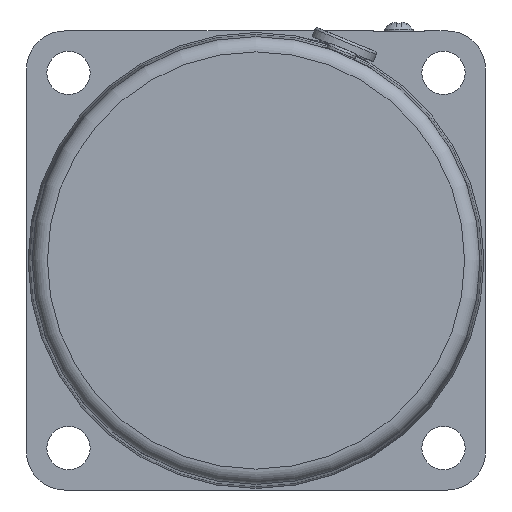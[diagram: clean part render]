
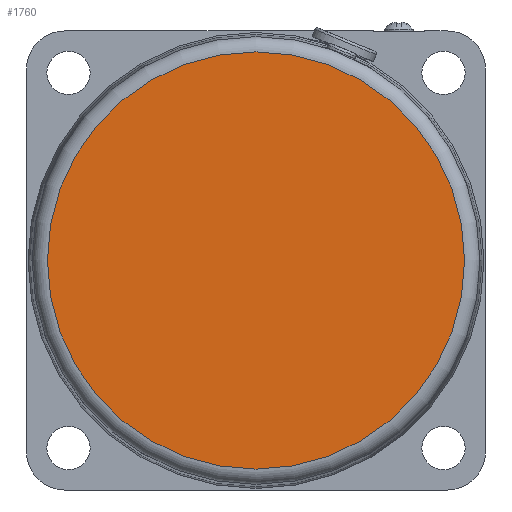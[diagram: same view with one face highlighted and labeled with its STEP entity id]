
A CAD part, left-side view. The second image highlights one B-rep face of the part: STEP entity #1760.
In plain terms, the highlighted planar face has unit normal (-1, 0, 0).
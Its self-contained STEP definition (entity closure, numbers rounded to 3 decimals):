
#388=FACE_OUTER_BOUND('',#509,.T.);
#509=EDGE_LOOP('',(#1150));
#648=CIRCLE('',#1883,40.9);
#736=VERTEX_POINT('',#2631);
#905=EDGE_CURVE('',#736,#736,#648,.T.);
#1150=ORIENTED_EDGE('',*,*,#905,.F.);
#1582=PLANE('',#1885);
#1760=ADVANCED_FACE('',(#388),#1582,.T.);
#1883=AXIS2_PLACEMENT_3D('',#2632,#2106,#2107);
#1885=AXIS2_PLACEMENT_3D('',#2634,#2110,#2111);
#2106=DIRECTION('center_axis',(1.,0.,0.));
#2107=DIRECTION('ref_axis',(0.,1.,0.));
#2110=DIRECTION('center_axis',(-1.,0.,0.));
#2111=DIRECTION('ref_axis',(0.,1.,0.));
#2631=CARTESIAN_POINT('',(-38.5,-40.9,0.));
#2632=CARTESIAN_POINT('Origin',(-38.5,0.,
0.));
#2634=CARTESIAN_POINT('Origin',(-38.5,0.,
0.));
